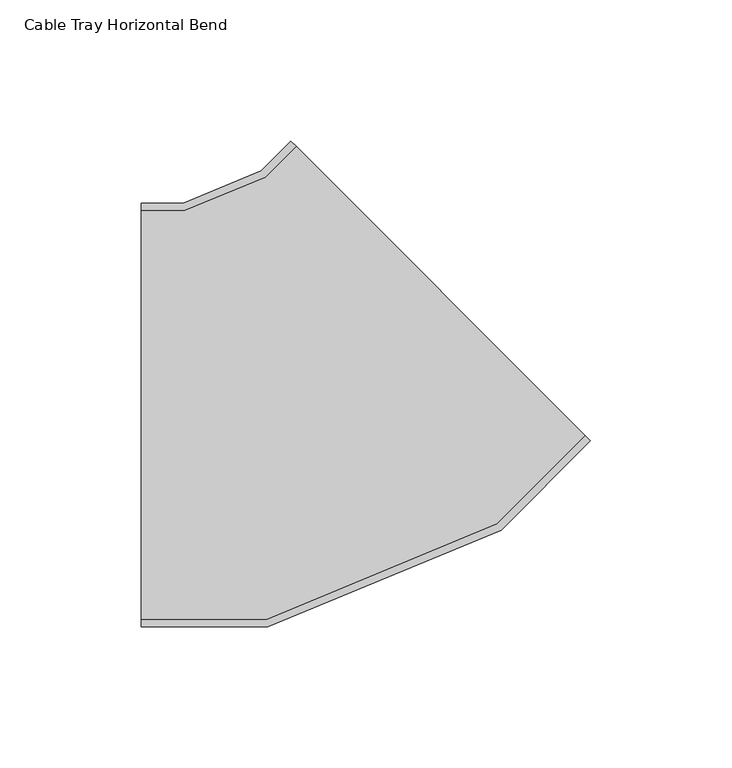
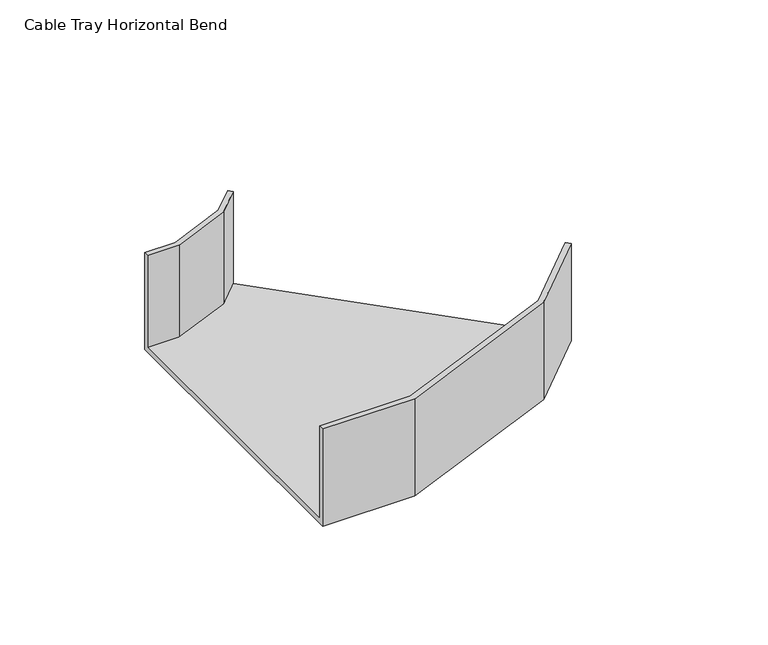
"""IFC4 building model written with IfcOpenShell, lengths in millimetres: cable carrier fitting geometry, Cable Tray Horizontal Bend : ELEC_ELV_CT_N2402."""

from ifc_helpers import new_model, si_unit, origin, place, context, project, spatial, faceted_brep, source, transform, mapped, element, save


def cable_tray_horizontal_bend_84a11516(model_context):
    return source(origin(), model_context, "Body", "Brep", [
        faceted_brep([(-62.1320347, -75.0, -25.0), (-62.1320347, -75.0, 25.0), (-62.1320347, -72.46, 25.0), (-62.1320347, -72.46, -22.46), (-62.1320347, 72.46, -22.46), (-62.1320347, 72.46, 25.0), (-62.1320347, 75.0, 25.0), (-62.1320347, 75.0, -25.0), (96.9669917, -9.0990252, -25.0), (-9.0990259, 96.9669916, -25.0), (-9.0990259, 96.9669916, 25.0), (-7.3029747, 95.1709404, 25.0), (-7.3029747, 95.1709404, -22.46), (95.1709405, -7.302974, -22.46), (95.1709405, -7.302974, 25.0), (96.9669917, -9.0990252, 25.0), (-17.3767518, -75.0, -25.0), (-17.3767518, -75.0, 25.0), (65.3202278, -40.7457893, 25.0), (63.8814334, -38.5924813, 25.0), (-17.8819892, -72.46, 25.0), (-17.8819892, -72.46, -22.46), (63.8814334, -38.5924813, -22.46), (-18.2091528, 84.2647622, -22.46), (-46.7083696, 72.46, -22.46), (-46.7083696, 72.46, 25.0), (-18.2091528, 84.2647622, 25.0), (-19.6479472, 86.4180702, 25.0), (-47.2136071, 75.0, 25.0), (-47.2136071, 75.0, -25.0), (-19.6479472, 86.4180702, -25.0), (65.3202278, -40.7457893, -25.0)], [[[0, 1, 2, 3, 4, 5, 6, 7]], [[8, 9, 10, 11, 12, 13, 14, 15]], [[1, 0, 16, 17]], [[2, 1, 17, 18, 15, 14, 19, 20]], [[3, 2, 20, 21]], [[4, 3, 21, 22, 13, 12, 23, 24]], [[5, 4, 24, 25]], [[6, 5, 25, 26, 11, 10, 27, 28]], [[7, 6, 28, 29]], [[0, 7, 29, 30, 9, 8, 31, 16]], [[17, 16, 31, 18]], [[21, 20, 19, 22]], [[25, 24, 23, 26]], [[29, 28, 27, 30]], [[18, 31, 8, 15]], [[22, 19, 14, 13]], [[26, 23, 12, 11]], [[30, 27, 10, 9]]]),
    ])


if __name__ == "__main__":
    model = new_model("IFC4")
    model_context = context("Model", 3, world=origin())
    ifc_project = project(units=[si_unit("LENGTHUNIT", "METRE", prefix="MILLI")], contexts=[model_context])
    site = spatial("IfcSite", under=ifc_project)
    building = spatial("IfcBuilding", under=site)
    placement = place(None, origin())
    cable_tray_horizontal_bend_shape = cable_tray_horizontal_bend_84a11516(model_context)
    element("IfcCableCarrierFitting", 1, ObjectType="Cable Tray Horizontal Bend : ELEC_ELV_CT_N2402", at=placement, inside=building, context=model_context, shape_type="MappedRepresentation", body=[
        mapped(cable_tray_horizontal_bend_shape, transform((0.0, 0.0, 0.0), x_axis=(1.0, 0.0, 0.0), y_axis=(0.0, 1.0, 0.0), z_axis=(0.0, 0.0, 1.0))),
    ])
    save(model, "model.ifc")
